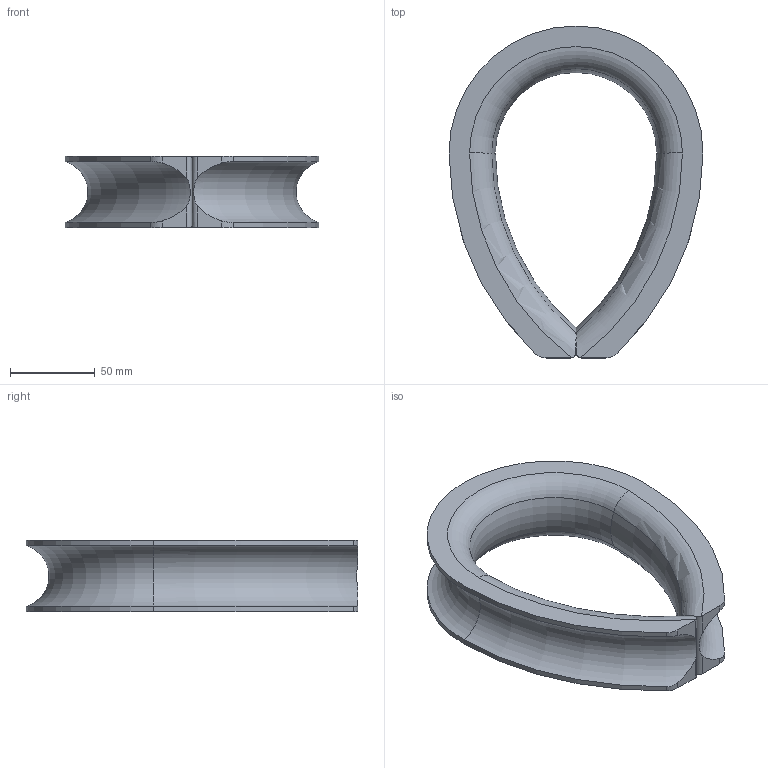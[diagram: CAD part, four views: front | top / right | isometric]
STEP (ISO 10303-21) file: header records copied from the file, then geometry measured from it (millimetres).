
FILE_DESCRIPTION(/* description */ (''),/* implementation_level */ '2;1');
FILE_NAME(/* name */ 'C:\Users\D\Documents\Inventor\各種小物\JIS\シンブル\A形\36.stp',/* time_stamp */ '2022-06-17T16:50:07+09:00',/* author */ ('D'),/* organization */ (''),/* preprocessor_version */ 'ST-DEVELOPER v18',/* originating_system */ 'Autodesk Inventor 2020',/* authorisation */ '');
FILE_SCHEMA (('AUTOMOTIVE_DESIGN { 1 0 10303 214 3 1 1 }','MODEL_BASED_INTEGRATED_MANUFACTURING_SCHEMA'));
Length unit declared in the file: millimetre
Products named in the file (1): 6
Bounding box: 150 x 196 x 42 mm (x, y, z)
Volume: 303882.6 mm3; surface area: 64419.7 mm2
Topology: 1 solids, 1 shells, 32 faces, 84 edges, 54 vertices
Faces by surface type: torus 12, cylinder 12, plane 8
Entity records: 1263 total; most frequent: CARTESIAN_POINT 437, ORIENTED_EDGE 168, DIRECTION 168, EDGE_CURVE 84, AXIS2_PLACEMENT_3D 73, VERTEX_POINT 54, CIRCLE 40, FACE_OUTER_BOUND 32
